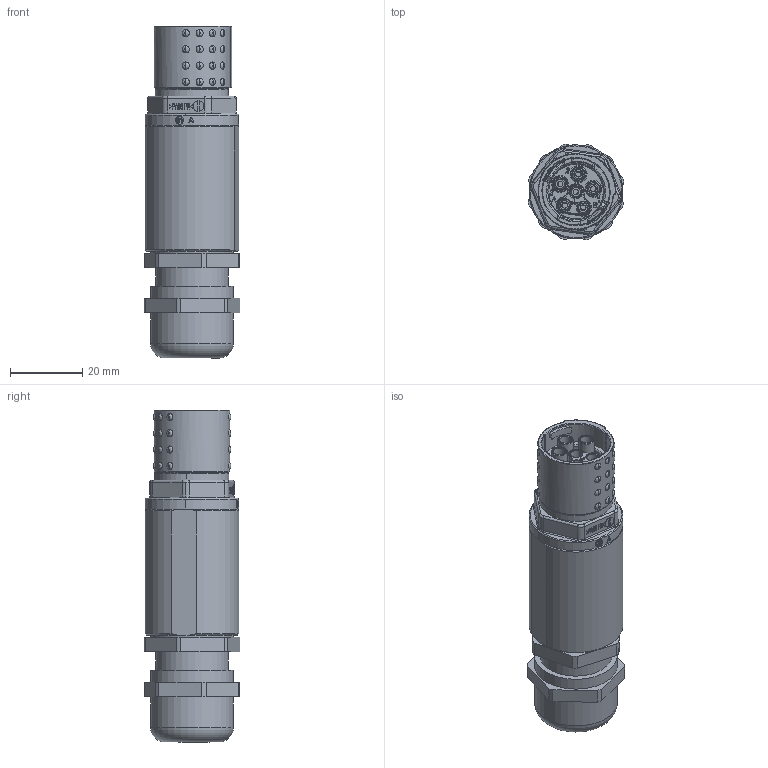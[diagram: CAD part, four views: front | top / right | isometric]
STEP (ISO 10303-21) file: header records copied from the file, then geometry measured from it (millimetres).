
FILE_DESCRIPTION (( 'STEP AP203' ), '1' );
FILE_NAME ('X-TEC_15K_HANDMONTAGE-BU_STEP.STEP', '2023-09-25T07:45:40', ( '' ), ( '' ), 'SwSTEP 2.0', 'SolidWorks 2021', '' );
FILE_SCHEMA (( 'CONFIG_CONTROL_DESIGN' ));
Length unit declared in the file: millimetre
Products named in the file (1): X-TEC_15K_HANDMONTAGE-BU_STEP
Bounding box: 26.48 x 26.48 x 91.92 mm (x, y, z)
Volume: 25027.6 mm3; surface area: 24524.1 mm2
Topology: 13 solids, 13 shells, 1379 faces, 3524 edges, 2294 vertices
Faces by surface type: plane 648, cylinder 339, bspline 267, torus 74, cone 51
Full cylindrical faces by diameter (mm): 0.8 x6, 1.6 x12, 2.25 x7, 2.5 x12, 3.12 x6, 3.5 x12, 3.6 x6, 13 x1, 16.9 x1, 18 x1, 18.4 x1, 20 x2, 23 x2
Entity records: 73131 total; most frequent: CARTESIAN_POINT 42935, ORIENTED_EDGE 6642, DIRECTION 5307, EDGE_CURVE 3321, VERTEX_POINT 2213, AXIS2_PLACEMENT_3D 1876, EDGE_LOOP 1662, VECTOR 1555
